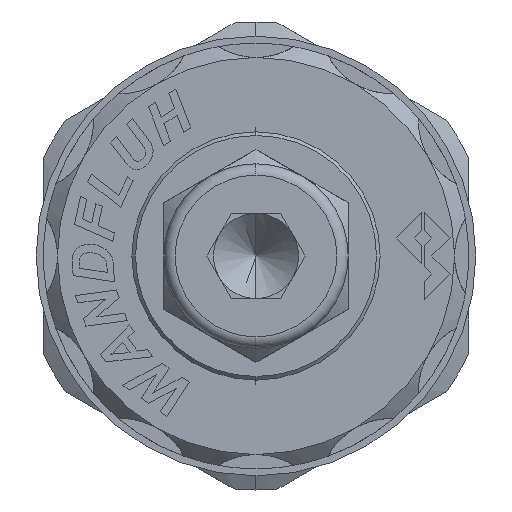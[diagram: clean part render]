
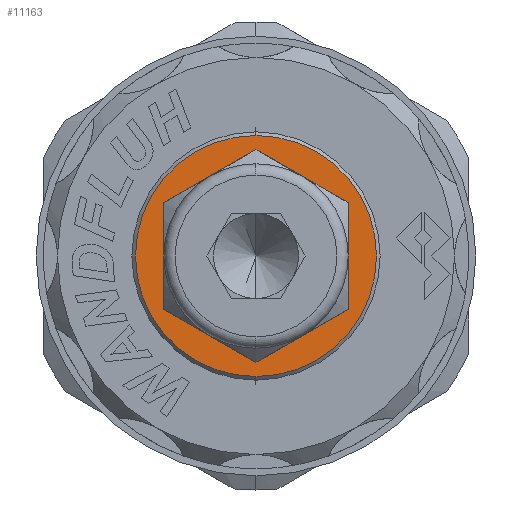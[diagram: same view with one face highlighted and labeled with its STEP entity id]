
A CAD part, left-side view. The second image highlights one B-rep face of the part: STEP entity #11163.
In plain terms, the highlighted planar face has unit normal (-1, 0, 0).
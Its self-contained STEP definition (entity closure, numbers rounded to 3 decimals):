
#931 = EDGE_LOOP ( 'NONE', ( #13266, #13212 ) ) ;
#1040 = EDGE_LOOP ( 'NONE', ( #13230, #13159, #13184, #13257, #13083, #13317 ) ) ;
#1139 = VECTOR ( 'NONE', #6106, 1000. ) ;
#1277 = VECTOR ( 'NONE', #6001, 1000. ) ;
#1319 = LINE ( 'NONE', #5951, #1537 ) ;
#1349 = LINE ( 'NONE', #6105, #1794 ) ;
#1360 = VECTOR ( 'NONE', #5981, 1000. ) ;
#1363 = LINE ( 'NONE', #5992, #1277 ) ;
#1537 = VECTOR ( 'NONE', #5947, 1000. ) ;
#1783 = CIRCLE ( 'NONE', #4291, 8.5 ) ;
#1786 = LINE ( 'NONE', #6101, #1139 ) ;
#1794 = VECTOR ( 'NONE', #6100, 1000. ) ;
#1824 = VECTOR ( 'NONE', #6099, 1000. ) ;
#1850 = LINE ( 'NONE', #6098, #1824 ) ;
#1851 = CIRCLE ( 'NONE', #4277, 8.5 ) ;
#1911 = LINE ( 'NONE', #5974, #1360 ) ;
#3901 = EDGE_CURVE ( 'NONE', #5616, #5544, #1319, .T. ) ;
#3912 = EDGE_CURVE ( 'NONE', #5416, #15836, #1911, .T. ) ;
#3920 = EDGE_CURVE ( 'NONE', #5601, #5571, #1363, .T. ) ;
#3937 = EDGE_CURVE ( 'NONE', #5404, #5575, #1851, .T. ) ;
#3956 = EDGE_CURVE ( 'NONE', #5544, #5601, #1850, .T. ) ;
#3959 = EDGE_CURVE ( 'NONE', #15836, #5616, #1786, .T. ) ;
#3961 = EDGE_CURVE ( 'NONE', #5575, #5404, #1783, .T. ) ;
#3962 = EDGE_CURVE ( 'NONE', #5571, #5416, #1349, .T. ) ;
#4277 = AXIS2_PLACEMENT_3D ( 'NONE', #6048, #6049, #6050 ) ;
#4291 = AXIS2_PLACEMENT_3D ( 'NONE', #6109, #6110, #6111 ) ;
#5404 = VERTEX_POINT ( 'NONE', #6169 ) ;
#5416 = VERTEX_POINT ( 'NONE', #6170 ) ;
#5544 = VERTEX_POINT ( 'NONE', #6182 ) ;
#5571 = VERTEX_POINT ( 'NONE', #6188 ) ;
#5575 = VERTEX_POINT ( 'NONE', #6193 ) ;
#5601 = VERTEX_POINT ( 'NONE', #6189 ) ;
#5616 = VERTEX_POINT ( 'NONE', #6196 ) ;
#5947 = DIRECTION ( 'NONE',  ( 0., 0.866, -0.5 ) ) ;
#5951 = CARTESIAN_POINT ( 'NONE',  ( -79.7, 0., 7.506 ) ) ;
#5974 = CARTESIAN_POINT ( 'NONE',  ( -79.7, -6.5, -3.753 ) ) ;
#5981 = DIRECTION ( 'NONE',  ( 0., 0., 1. ) ) ;
#5992 = CARTESIAN_POINT ( 'NONE',  ( -79.7, 6.5, -3.753 ) ) ;
#6001 = DIRECTION ( 'NONE',  ( 0., -0.866, -0.5 ) ) ;
#6048 = CARTESIAN_POINT ( 'NONE',  ( -79.7, 0., 0. ) ) ;
#6049 = DIRECTION ( 'NONE',  ( -1., 0., 0. ) ) ;
#6050 = DIRECTION ( 'NONE',  ( 0., 0., 1. ) ) ;
#6098 = CARTESIAN_POINT ( 'NONE',  ( -79.7, 6.5, 3.753 ) ) ;
#6099 = DIRECTION ( 'NONE',  ( 0., 0., -1. ) ) ;
#6100 = DIRECTION ( 'NONE',  ( 0., -0.866, 0.5 ) ) ;
#6101 = CARTESIAN_POINT ( 'NONE',  ( -79.7, -6.5, 3.753 ) ) ;
#6105 = CARTESIAN_POINT ( 'NONE',  ( -79.7, 0., -7.506 ) ) ;
#6106 = DIRECTION ( 'NONE',  ( 0., 0.866, 0.5 ) ) ;
#6109 = CARTESIAN_POINT ( 'NONE',  ( -79.7, 0., 0. ) ) ;
#6110 = DIRECTION ( 'NONE',  ( -1., 0., 0. ) ) ;
#6111 = DIRECTION ( 'NONE',  ( 0., 0., 1. ) ) ;
#6169 = CARTESIAN_POINT ( 'NONE',  ( -79.7, 0., 8.5 ) ) ;
#6170 = CARTESIAN_POINT ( 'NONE',  ( -79.7, -6.5, -3.753 ) ) ;
#6182 = CARTESIAN_POINT ( 'NONE',  ( -79.7, 6.5, 3.753 ) ) ;
#6188 = CARTESIAN_POINT ( 'NONE',  ( -79.7, 0., -7.506 ) ) ;
#6189 = CARTESIAN_POINT ( 'NONE',  ( -79.7, 6.5, -3.753 ) ) ;
#6193 = CARTESIAN_POINT ( 'NONE',  ( -79.7, 0., -8.5 ) ) ;
#6196 = CARTESIAN_POINT ( 'NONE',  ( -79.7, 0., 7.506 ) ) ;
#9762 = PLANE ( 'NONE',  #16027 ) ;
#9769 = CARTESIAN_POINT ( 'NONE',  ( -79.7, 0., 0. ) ) ;
#9770 = DIRECTION ( 'NONE',  ( -1., 0., 0. ) ) ;
#9771 = DIRECTION ( 'NONE',  ( 0., 0., 1. ) ) ;
#10907 = CARTESIAN_POINT ( 'NONE',  ( -79.7, -6.5, 3.753 ) ) ;
#11163 = ADVANCED_FACE ( 'NONE', ( #12792, #13069 ), #9762, .T. ) ;
#12792 = FACE_BOUND ( 'NONE', #1040, .T. ) ;
#13069 = FACE_OUTER_BOUND ( 'NONE', #931, .T. ) ;
#13083 = ORIENTED_EDGE ( 'NONE', *, *, #3920, .F. ) ;
#13159 = ORIENTED_EDGE ( 'NONE', *, *, #3959, .F. ) ;
#13184 = ORIENTED_EDGE ( 'NONE', *, *, #3912, .F. ) ;
#13212 = ORIENTED_EDGE ( 'NONE', *, *, #3937, .T. ) ;
#13230 = ORIENTED_EDGE ( 'NONE', *, *, #3901, .F. ) ;
#13257 = ORIENTED_EDGE ( 'NONE', *, *, #3962, .F. ) ;
#13266 = ORIENTED_EDGE ( 'NONE', *, *, #3961, .T. ) ;
#13317 = ORIENTED_EDGE ( 'NONE', *, *, #3956, .F. ) ;
#15836 = VERTEX_POINT ( 'NONE', #10907 ) ;
#16027 = AXIS2_PLACEMENT_3D ( 'NONE', #9769, #9770, #9771 ) ;
